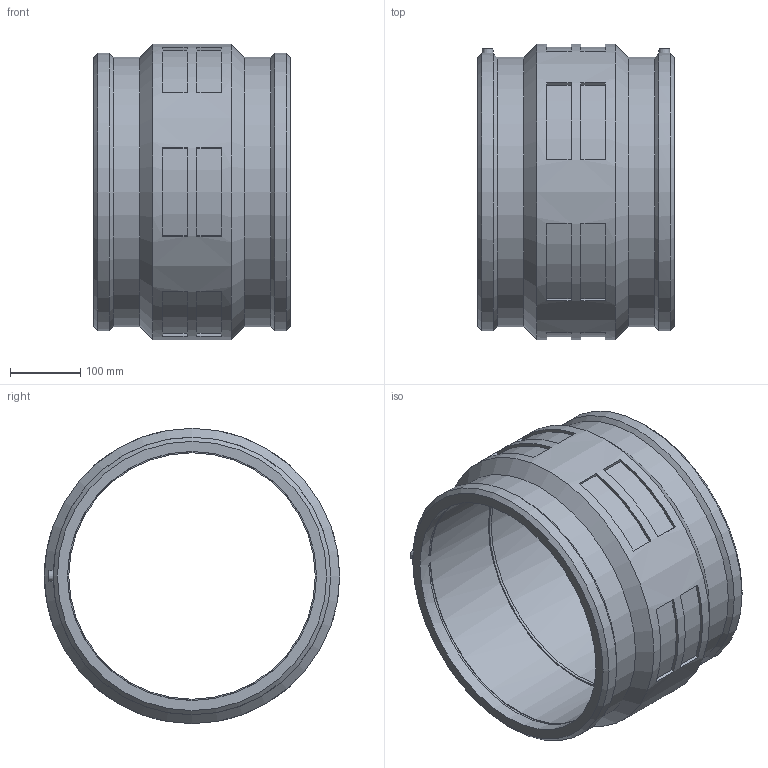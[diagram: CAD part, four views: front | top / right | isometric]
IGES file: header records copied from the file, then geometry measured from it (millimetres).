
Global section: file name: 460104355.ipt; native system: Autodesk Inventor 2015; preprocessor: unknown; author: KIM; date: 20171106.093424; units: millimetre
Bounding box: 280 x 421 x 421 mm (x, y, z)
Volume: 7843439.5 mm3; surface area: 754562.4 mm2
Topology: 1 solids, 1 shells, 98 faces, 238 edges, 158 vertices
Faces by surface type: plane 60, cylinder 19, cone 12, revolution 7
Full cylindrical faces by diameter (mm): 4 x2, 383.868 x2, 395.74 x2, 421 x1
